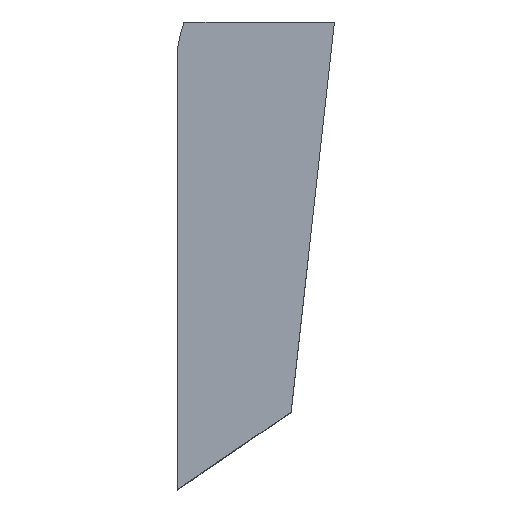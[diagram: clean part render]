
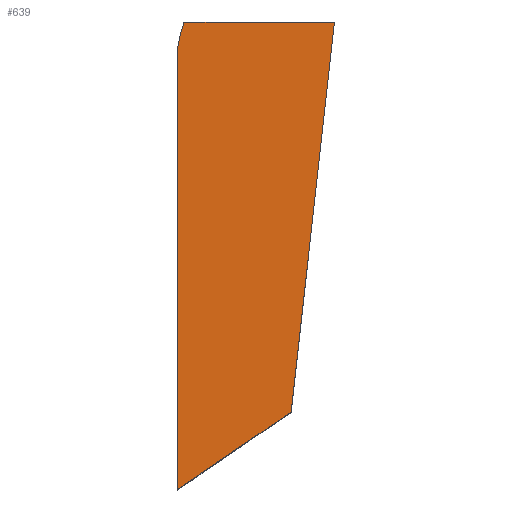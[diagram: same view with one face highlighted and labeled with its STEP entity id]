
A CAD part, top view. The second image highlights one B-rep face of the part: STEP entity #639.
In plain terms, the highlighted planar face has unit normal (0, 0, 1).
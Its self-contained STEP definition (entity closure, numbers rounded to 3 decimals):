
#28=B_SPLINE_CURVE_WITH_KNOTS('',3,(#1131,#1132,#1133,#1134,#1135,#1136,
#1137),.UNSPECIFIED.,.F.,.F.,(4,3,4),(-0.918,-0.587,
-0.541),.UNSPECIFIED.);
#46=PLANE('',#699);
#78=FACE_OUTER_BOUND('',#111,.T.);
#111=EDGE_LOOP('',(#579,#580,#581,#582,#583));
#163=LINE('',#960,#228);
#194=LINE('',#1100,#259);
#198=LINE('',#1107,#263);
#201=LINE('',#1139,#266);
#228=VECTOR('',#774,10.);
#259=VECTOR('',#837,10.);
#263=VECTOR('',#843,10.);
#266=VECTOR('',#848,10.);
#304=VERTEX_POINT('',#952);
#305=VERTEX_POINT('',#959);
#325=VERTEX_POINT('',#1097);
#327=VERTEX_POINT('',#1106);
#328=VERTEX_POINT('',#1124);
#371=EDGE_CURVE('',#305,#304,#163,.F.);
#410=EDGE_CURVE('',#325,#305,#194,.T.);
#414=EDGE_CURVE('',#327,#325,#198,.F.);
#418=EDGE_CURVE('',#304,#328,#28,.F.);
#419=EDGE_CURVE('',#328,#327,#201,.F.);
#579=ORIENTED_EDGE('',*,*,#419,.T.);
#580=ORIENTED_EDGE('',*,*,#414,.T.);
#581=ORIENTED_EDGE('',*,*,#410,.T.);
#582=ORIENTED_EDGE('',*,*,#371,.T.);
#583=ORIENTED_EDGE('',*,*,#418,.T.);
#639=ADVANCED_FACE('',(#78),#46,.T.);
#699=AXIS2_PLACEMENT_3D('',#1140,#849,#850);
#774=DIRECTION('',(1.,0.,0.));
#837=DIRECTION('',(0.11,0.994,0.));
#843=DIRECTION('',(-0.826,-0.564,0.));
#848=DIRECTION('',(0.,1.,0.));
#849=DIRECTION('center_axis',(0.,0.,
1.));
#850=DIRECTION('ref_axis',(-1.,0.,0.));
#952=CARTESIAN_POINT('',(-251.525,153.201,-9.567));
#959=CARTESIAN_POINT('',(-238.267,153.201,-9.567));
#960=CARTESIAN_POINT('',(-242.739,153.201,-9.567));
#1097=CARTESIAN_POINT('',(-242.078,118.861,-9.567));
#1100=CARTESIAN_POINT('',(-242.093,118.73,-9.567));
#1106=CARTESIAN_POINT('',(-252.086,112.02,-9.567));
#1107=CARTESIAN_POINT('',(-245.039,116.838,-9.567));
#1124=CARTESIAN_POINT('',(-252.086,150.864,-9.567));
#1131=CARTESIAN_POINT('Ctrl Pts',(-252.086,150.864,-9.567));
#1132=CARTESIAN_POINT('Ctrl Pts',(-251.987,151.558,-9.567));
#1133=CARTESIAN_POINT('Ctrl Pts',(-251.831,152.245,-9.567));
#1134=CARTESIAN_POINT('Ctrl Pts',(-251.617,152.922,-9.567));
#1135=CARTESIAN_POINT('Ctrl Pts',(-251.588,153.015,-9.567));
#1136=CARTESIAN_POINT('Ctrl Pts',(-251.557,153.109,-9.567));
#1137=CARTESIAN_POINT('Ctrl Pts',(-251.525,153.201,-9.567));
#1139=CARTESIAN_POINT('',(-252.086,141.719,-9.567));
#1140=CARTESIAN_POINT('Origin',(-245.222,132.567,-9.567));
